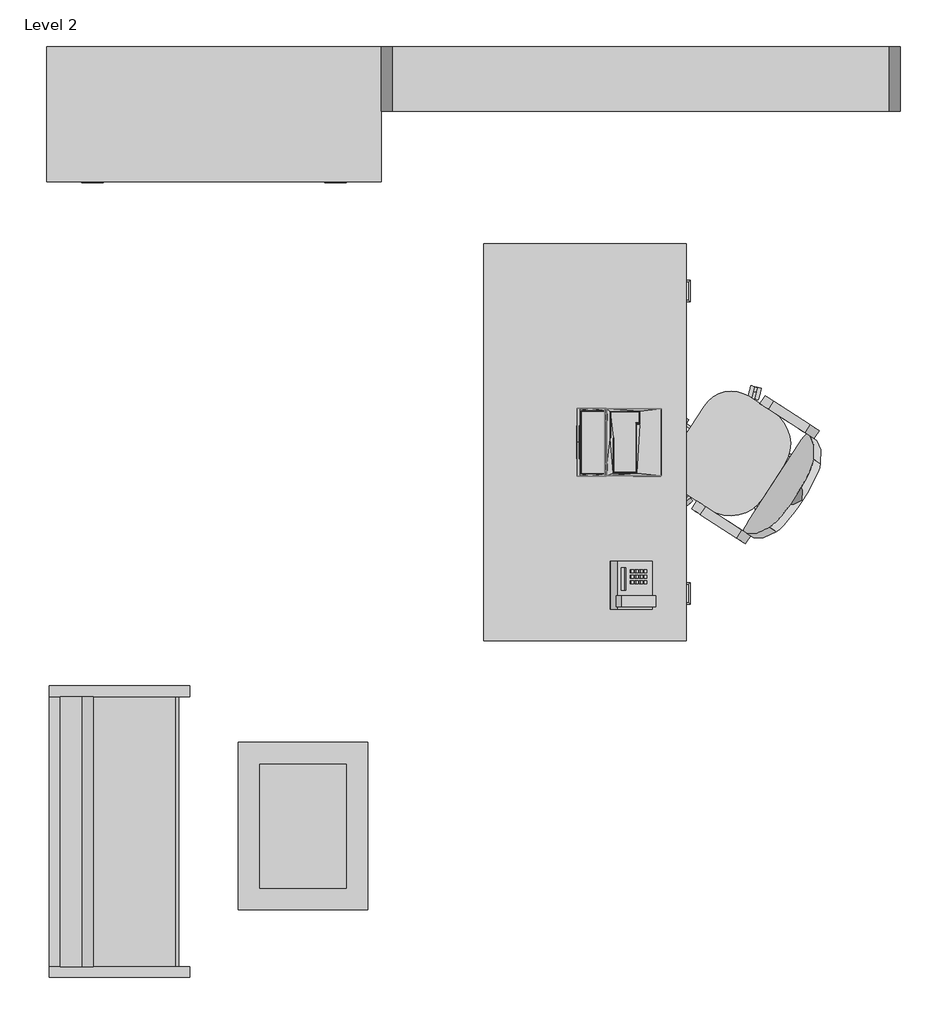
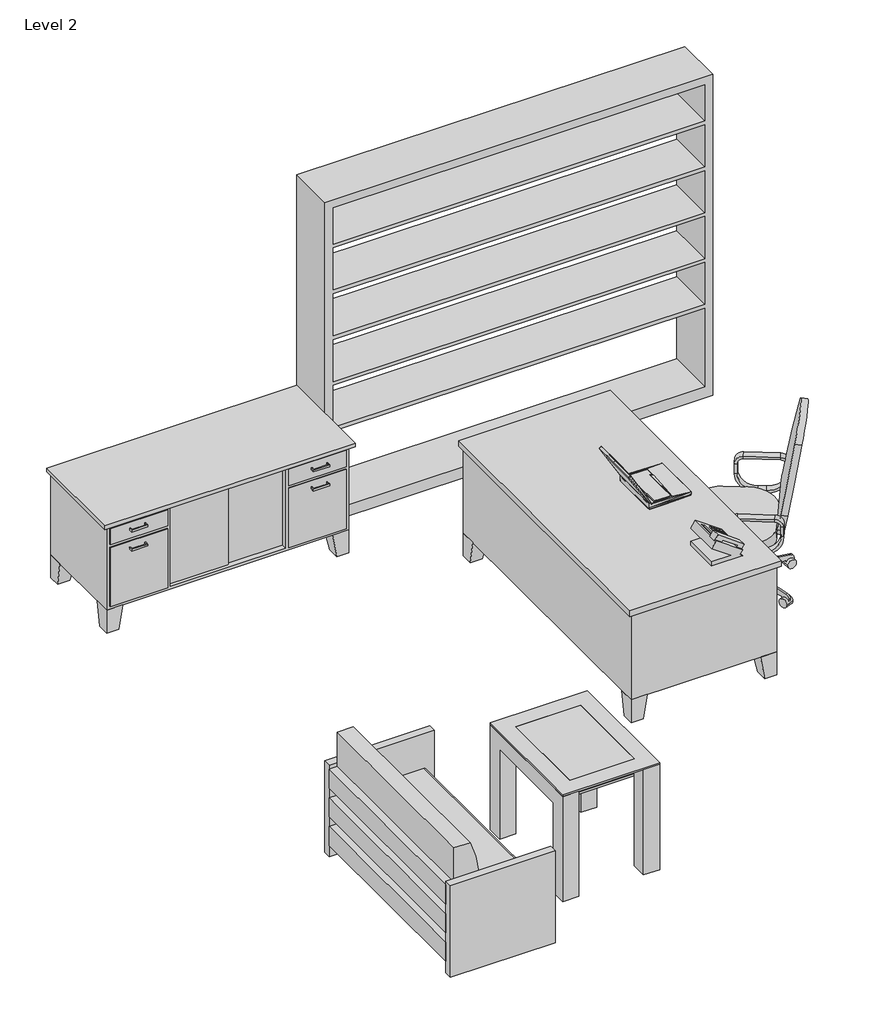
# One storey, incomplete: 6 furniture elements, 2 proxies.
"""IFC4 building model written with IfcOpenShell, lengths in millimetres."""

from ifc_helpers import new_model, si_unit, origin, place, context, project, spatial, transform, mapped, element, save
from components import entourage_0ad6723a, phone_phone_5230e7aa, chair_executive_chair_executive_8d69e98c, furniture_894c625b, furniture_2fc54265, furniture_b1da5ad0, furniture_22419f35, furniture_5f90431c

model = new_model("IFC4")

# Units and contexts
model_context = context("Model", 3, world=origin())
ifc_project = project(units=[si_unit("LENGTHUNIT", "METRE", prefix="MILLI")], contexts=[model_context])

# Site, building, storey
site = spatial("IfcSite", under=ifc_project)
building = spatial("IfcBuilding", under=site)
storey = spatial("IfcBuildingStorey", under=building, Name="Level 2", Elevation=3657.6)

# Proxies
placement = place(None, origin())
entourage_shape = entourage_0ad6723a(model_context)
element("IfcBuildingElementProxy", 1, Name="RPC Notebook Computer : RPC Notebook Computer", ObjectType="RPC Notebook Computer : RPC Notebook Computer", at=placement, inside=storey, context=model_context, shape_type="MappedRepresentation", body=[
    mapped(entourage_shape, transform((-53278.2479319, -10499.2294459, 4419.6), x_axis=(0.0, 1.0000000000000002, 0.0), y_axis=(-1.0000000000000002, 0.0, 0.0), z_axis=(0.0, 0.0, 1.0))),
])
phone_phone_shape = phone_phone_5230e7aa(model_context)
element("IfcBuildingElementProxy", 2, Name="Phone : Phone", ObjectType="Phone : Phone", at=placement, inside=storey, context=model_context, shape_type="MappedRepresentation", body=[
    mapped(phone_phone_shape, transform((-53462.1441608, -11419.7107921, 4419.6), x_axis=(0.0, -1.0000000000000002, 0.0), y_axis=(1.0000000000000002, 0.0, 0.0), z_axis=(0.0, 0.0, 1.0))),
])

# Furniture
chair_executive_chair_executive_shape = chair_executive_chair_executive_8d69e98c(model_context)
element("IfcFurniture", 3, ObjectType="Chair-Executive : Chair-Executive", at=placement, inside=storey, context=model_context, shape_type="MappedRepresentation", body=[
    mapped(chair_executive_chair_executive_shape, transform((-52813.8063984, -10701.5228745, 3657.6), x_axis=(0.5446390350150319, 0.8386705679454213, 0.0), y_axis=(-0.8386705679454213, 0.5446390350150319, 0.0), z_axis=(0.0, 0.0, 1.0))),
])
furniture_shape = furniture_894c625b(model_context)
element("IfcFurniture", 4, ObjectType="Credenza : 60\" x 24\"", at=placement, inside=storey, context=model_context, shape_type="MappedRepresentation", body=[
    mapped(furniture_shape, transform((-55272.4299121, -8947.8906771, 3657.6), x_axis=(1.0, 0.0, 0.0), y_axis=(0.0, 1.0, 0.0), z_axis=(0.0, 0.0, 1.0))),
])
furniture_2_shape = furniture_2fc54265(model_context)
element("IfcFurniture", 5, ObjectType="Desk : 72\" x 36\"", at=placement, inside=storey, context=model_context, shape_type="MappedRepresentation", body=[
    mapped(furniture_2_shape, transform((-53925.9479319, -9584.8294459, 3657.6), x_axis=(0.0, -1.0000000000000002, 0.0), y_axis=(1.0000000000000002, 0.0, 0.0), z_axis=(0.0, 0.0, 1.0))),
])
furniture_3_shape = furniture_b1da5ad0(model_context)
element("IfcFurniture", 6, ObjectType="Shelving : 96\" x 12\" x 84\"", at=placement, inside=storey, context=model_context, shape_type="MappedRepresentation", body=[
    mapped(furniture_3_shape, transform((-53206.2856498, -8486.1103492, 3657.6), x_axis=(1.0, 0.0, 0.0), y_axis=(0.0, 1.0, 0.0), z_axis=(0.0, 0.0, 1.0))),
])
furniture_4_shape = furniture_22419f35(model_context)
element("IfcFurniture", 7, ObjectType="Sofa : 54\"", at=placement, inside=storey, context=model_context, shape_type="MappedRepresentation", body=[
    mapped(furniture_4_shape, transform((-55511.2315514, -12400.0365086, 3657.6), x_axis=(0.0, 1.0000000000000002, 0.0), y_axis=(-1.0000000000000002, 0.0, 0.0), z_axis=(0.0, 0.0, 1.0))),
])
furniture_5_shape = furniture_5f90431c(model_context)
element("IfcFurniture", 8, ObjectType="Table-Coffee : 31\" x 28\" x 24\"", at=placement, inside=storey, context=model_context, shape_type="MappedRepresentation", body=[
    mapped(furniture_5_shape, transform((-54812.0514164, -12399.4770946, 3657.6), x_axis=(1.0000000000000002, 0.0, 0.0), y_axis=(0.0, 1.0000000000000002, 0.0), z_axis=(0.0, 0.0, 1.0))),
])

save(model, "model.ifc")
